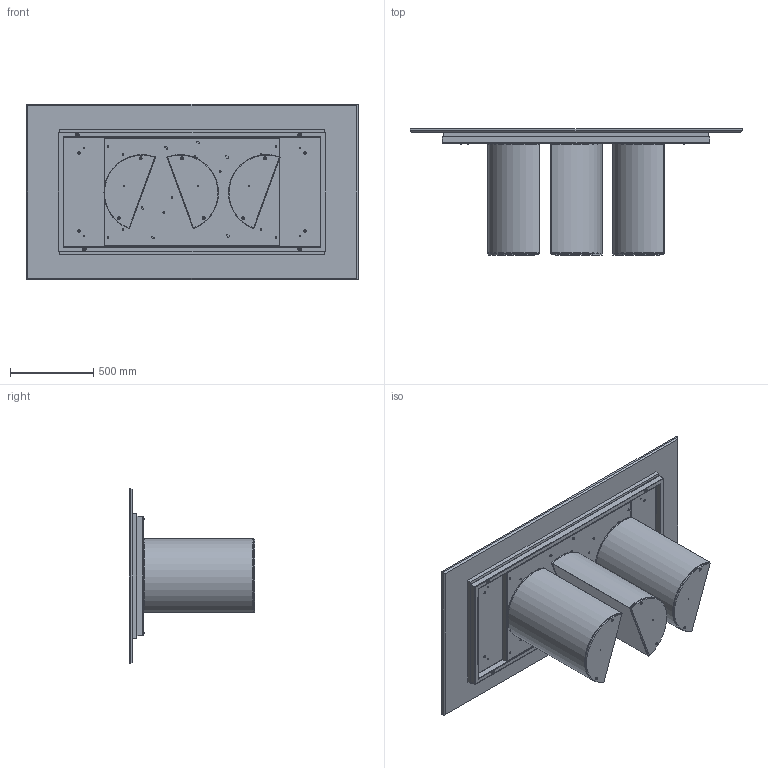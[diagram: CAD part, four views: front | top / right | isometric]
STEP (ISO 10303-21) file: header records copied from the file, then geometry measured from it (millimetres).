
FILE_DESCRIPTION (( 'STEP AP203' ), '1' );
FILE_NAME ('PL21M.STEP', '2024-08-07T13:51:17', ( '' ), ( '' ), 'SwSTEP 2.0', 'SolidWorks 2022', '' );
FILE_SCHEMA (( 'CONFIG_CONTROL_DESIGN' ));
Length unit declared in the file: millimetre
Products named in the file (16): COLLO TELAIO UNIVERSALE TTAV0601 CON FERRAMENTA_FERRAMENTA MTG TOP LEGNO-MARMO-KING; TTAV0601_01-00-STRUTTURA X TAVOLI PLAI ONDA NOA 240; M2XMXX-00-Piani rettangolari in marmo_2000x1060; M8xXXmm_M8x20mm; M8xXXmm_hex_M8X20mm; TTAV0601-00-TELAIO X TAVOLI PLAI ONDA NOA 240cm_TTAV06; Assieme Basamento PLAI_Basamento per tavoli; TTAV0601_02-00-VASSOIO TAVOLI PLAI ONDA NOA 240; PL21M; TRUXXXXXX-00-NOBILITATO GR CON SUPP TRUCIOLARE SP. 25_TRU00004_1600x720; M8xXXmm_hex_M8X60mm; PLA000000BAS-00-PLAI BASE GREZZA; PLA000000ZOC-01-PLAI ZOCCOLO DELLA BASE; rondella M8_8X24; M2X-00-Piani rettangolari marmo_2000*1060; M8xXXmm_M8x55mm
Assembly tree (34 placements, depth 4):
  PL21M
    COLLO TELAIO UNIVERSALE TTAV0601 CON FERRAMENTA_FERRAMENTA MTG TOP LEGNO-MARMO-KING
      TTAV0601-00-TELAIO X TAVOLI PLAI ONDA NOA 240cm_TTAV06
        TTAV0601_02-00-VASSOIO TAVOLI PLAI ONDA NOA 240
        TTAV0601_01-00-STRUTTURA X TAVOLI PLAI ONDA NOA 240
      rondella M8_8X24  x4
      M8xXXmm_M8x55mm  x4
    Assieme Basamento PLAI_Basamento per tavoli  x3
      PLA000000BAS-00-PLAI BASE GREZZA
      PLA000000ZOC-01-PLAI ZOCCOLO DELLA BASE
      M8xXXmm_hex_M8X60mm
      M8xXXmm_hex_M8X20mm
    rondella M8_8X24  x6
    M8xXXmm_M8x20mm  x6
    M2XMXX-00-Piani rettangolari in marmo_2000x1060
      M2X-00-Piani rettangolari marmo_2000*1060
      TRUXXXXXX-00-NOBILITATO GR CON SUPP TRUCIOLARE SP. 25_TRU00004_1600x720
Bounding box: 2000 x 759 x 1060 mm (x, y, z)
Volume: 84822691.2 mm3; surface area: 15491960.7 mm2
Topology: 45 solids, 45 shells, 1334 faces, 3032 edges, 1747 vertices
Faces by surface type: plane 521, cylinder 383, cone 290, torus 132, sphere 8
Entity records: 22344 total; most frequent: DIRECTION 3698, CARTESIAN_POINT 3528, ORIENTED_EDGE 3252, EDGE_CURVE 1626, AXIS2_PLACEMENT_3D 1385, VERTEX_POINT 979, VECTOR 928, LINE 928
